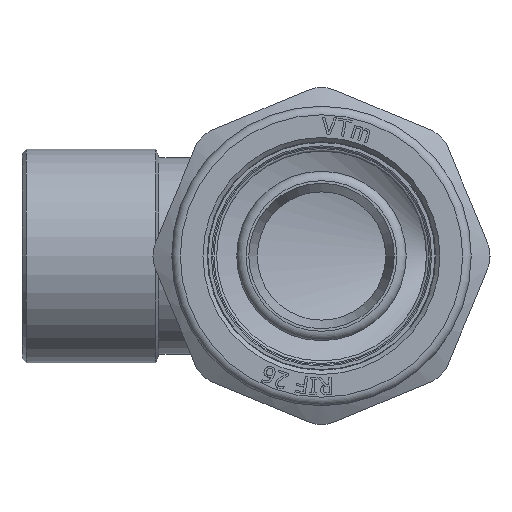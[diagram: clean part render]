
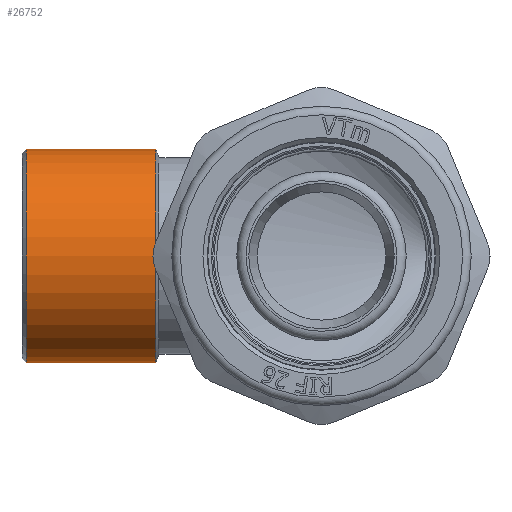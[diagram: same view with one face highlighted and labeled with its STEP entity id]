
A CAD part, left-side view. The second image highlights one B-rep face of the part: STEP entity #26752.
In plain terms, the highlighted cylindrical face has radius 12.5 mm (diameter 25 mm), a full revolution.
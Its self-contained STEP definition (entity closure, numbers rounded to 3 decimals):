
#2735=FACE_OUTER_BOUND('',#4272,.T.);
#4272=EDGE_LOOP('',(#24445,#24446,#24447,#24448,#24449,#24450));
#4687=CIRCLE('',#27717,12.5);
#4688=CIRCLE('',#27718,12.5);
#4689=CIRCLE('',#27720,12.5);
#4690=CIRCLE('',#27721,12.5);
#8414=LINE('',#63694,#10152);
#10152=VECTOR('',#31502,12.5);
#12692=VERTEX_POINT('',#63684);
#12693=VERTEX_POINT('',#63685);
#12694=VERTEX_POINT('',#63690);
#12695=VERTEX_POINT('',#63691);
#16678=EDGE_CURVE('',#12692,#12693,#4687,.T.);
#16679=EDGE_CURVE('',#12693,#12692,#4688,.T.);
#16681=EDGE_CURVE('',#12694,#12695,#4689,.T.);
#16682=EDGE_CURVE('',#12695,#12694,#4690,.T.);
#16683=EDGE_CURVE('',#12695,#12693,#8414,.T.);
#24445=ORIENTED_EDGE('',*,*,#16681,.F.);
#24446=ORIENTED_EDGE('',*,*,#16682,.F.);
#24447=ORIENTED_EDGE('',*,*,#16683,.T.);
#24448=ORIENTED_EDGE('',*,*,#16679,.T.);
#24449=ORIENTED_EDGE('',*,*,#16678,.T.);
#24450=ORIENTED_EDGE('',*,*,#16683,.F.);
#25399=CYLINDRICAL_SURFACE('',#27719,12.5);
#26752=ADVANCED_FACE('',(#2735),#25399,.T.);
#27717=AXIS2_PLACEMENT_3D('',#63686,#31491,#31492);
#27718=AXIS2_PLACEMENT_3D('',#63687,#31493,#31494);
#27719=AXIS2_PLACEMENT_3D('',#63689,#31496,#31497);
#27720=AXIS2_PLACEMENT_3D('',#63692,#31498,#31499);
#27721=AXIS2_PLACEMENT_3D('',#63693,#31500,#31501);
#31491=DIRECTION('center_axis',(0.,-1.,0.));
#31492=DIRECTION('ref_axis',(1.,0.,0.));
#31493=DIRECTION('center_axis',(0.,-1.,0.));
#31494=DIRECTION('ref_axis',(1.,0.,0.));
#31496=DIRECTION('center_axis',(0.,-1.,0.));
#31497=DIRECTION('ref_axis',(1.,0.,0.));
#31498=DIRECTION('center_axis',(0.,-1.,0.));
#31499=DIRECTION('ref_axis',(1.,0.,0.));
#31500=DIRECTION('center_axis',(0.,-1.,0.));
#31501=DIRECTION('ref_axis',(1.,0.,0.));
#31502=DIRECTION('',(0.,1.,0.));
#63684=CARTESIAN_POINT('',(12.5,34.5,0.));
#63685=CARTESIAN_POINT('',(-12.5,34.5,0.));
#63686=CARTESIAN_POINT('Origin',(0.,34.5,0.));
#63687=CARTESIAN_POINT('Origin',(0.,34.5,0.));
#63689=CARTESIAN_POINT('Origin',(0.,26.932,0.));
#63690=CARTESIAN_POINT('',(12.5,19.364,0.));
#63691=CARTESIAN_POINT('',(-12.5,19.364,0.));
#63692=CARTESIAN_POINT('Origin',(0.,19.364,0.));
#63693=CARTESIAN_POINT('Origin',(0.,19.364,0.));
#63694=CARTESIAN_POINT('',(-12.5,26.932,0.));
